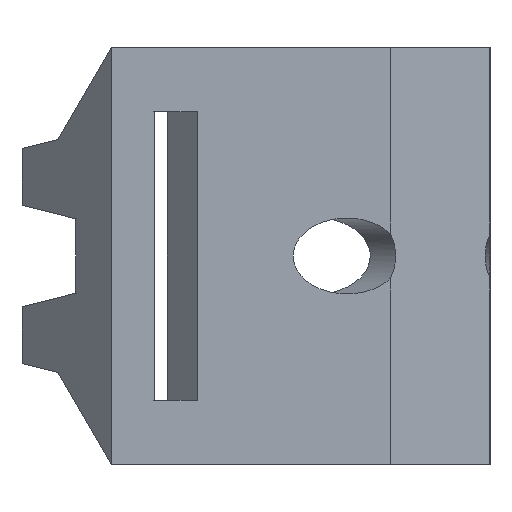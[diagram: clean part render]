
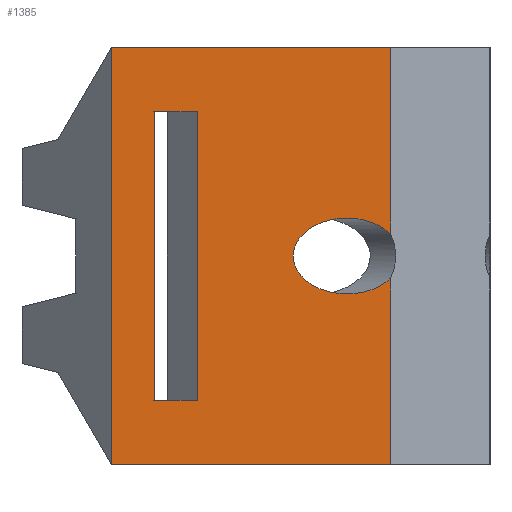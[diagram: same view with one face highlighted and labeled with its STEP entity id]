
A CAD part, left-side view. The second image highlights one B-rep face of the part: STEP entity #1385.
In plain terms, the highlighted planar face has unit normal (-1, 0, 0).
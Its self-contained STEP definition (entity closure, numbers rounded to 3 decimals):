
#9 = CARTESIAN_POINT ( 'NONE',  ( 0., 13.26, 5.7 ) ) ;
#11 = VECTOR ( 'NONE', #1622, 1000. ) ;
#24 = EDGE_CURVE ( 'NONE', #1662, #1462, #1658, .T. ) ;
#51 = CARTESIAN_POINT ( 'NONE',  ( 0., 11.563, -5.7 ) ) ;
#111 = CARTESIAN_POINT ( 'NONE',  ( 0., 3.926, -0.867 ) ) ;
#116 = CARTESIAN_POINT ( 'NONE',  ( 0., 13.26, -5.7 ) ) ;
#128 = VECTOR ( 'NONE', #1361, 1000. ) ;
#129 = LINE ( 'NONE', #922, #416 ) ;
#159 = FACE_BOUND ( 'NONE', #1328, .T. ) ;
#198 = LINE ( 'NONE', #1470, #11 ) ;
#212 = CARTESIAN_POINT ( 'NONE',  ( 0., 13.26, 8.25 ) ) ;
#326 = ORIENTED_EDGE ( 'NONE', *, *, #24, .F. ) ;
#329 = CARTESIAN_POINT ( 'NONE',  ( 0., 3.926, 0.867 ) ) ;
#337 = CARTESIAN_POINT ( 'NONE',  ( 0., 11.563, 5.7 ) ) ;
#343 = VERTEX_POINT ( 'NONE', #1309 ) ;
#371 = DIRECTION ( 'NONE',  ( 0., 0., -1. ) ) ;
#377 = LINE ( 'NONE', #797, #128 ) ;
#386 = VERTEX_POINT ( 'NONE', #659 ) ;
#399 = ORIENTED_EDGE ( 'NONE', *, *, #1259, .F. ) ;
#416 = VECTOR ( 'NONE', #1263, 1000. ) ;
#467 = CARTESIAN_POINT ( 'NONE',  ( 0., 7.778, 0. ) ) ;
#510 = LINE ( 'NONE', #929, #1027 ) ;
#530 = DIRECTION ( 'NONE',  ( 0., 0., -1. ) ) ;
#538 = CARTESIAN_POINT ( 'NONE',  ( 0., 14.957, 8.25 ) ) ;
#568 = DIRECTION ( 'NONE',  ( 0., 1., 0. ) ) ;
#575 = DIRECTION ( 'NONE',  ( 1., 0., 0. ) ) ;
#599 = CARTESIAN_POINT ( 'NONE',  ( 0., 7.778, -1.779 ) ) ;
#654 = ORIENTED_EDGE ( 'NONE', *, *, #1062, .T. ) ;
#659 = CARTESIAN_POINT ( 'NONE',  ( 0., 14.957, 8.25 ) ) ;
#698 = ORIENTED_EDGE ( 'NONE', *, *, #1723, .T. ) ;
#707 = CARTESIAN_POINT ( 'NONE',  ( 0., 14.957, 8.25 ) ) ;
#713 = PLANE ( 'NONE',  #1321 ) ;
#715 = ORIENTED_EDGE ( 'NONE', *, *, #1114, .F. ) ;
#724 = ORIENTED_EDGE ( 'NONE', *, *, #1241, .F. ) ;
#737 = CARTESIAN_POINT ( 'NONE',  ( 0., 3.926, -0.867 ) ) ;
#738 = EDGE_LOOP ( 'NONE', ( #326, #1628, #724, #399, #654, #1249 ) ) ;
#790 = CARTESIAN_POINT ( 'NONE',  ( 0., 3.926, 8.25 ) ) ;
#797 = CARTESIAN_POINT ( 'NONE',  ( 0., 3.926, 8.25 ) ) ;
#807 = ORIENTED_EDGE ( 'NONE', *, *, #983, .F. ) ;
#827 = CARTESIAN_POINT ( 'NONE',  ( 0., 14.957, 5.7 ) ) ;
#922 = CARTESIAN_POINT ( 'NONE',  ( 0., 14.957, 8.25 ) ) ;
#929 = CARTESIAN_POINT ( 'NONE',  ( 0., 14.957, -5.7 ) ) ;
#949 = LINE ( 'NONE', #827, #1122 ) ;
#983 = EDGE_CURVE ( 'NONE', #1624, #1097, #1018, .T. ) ;
#996 = EDGE_CURVE ( 'NONE', #1662, #343, #1304, .T. ) ;
#1005 = DIRECTION ( 'NONE',  ( 0., 0., -1. ) ) ;
#1017 = VERTEX_POINT ( 'NONE', #337 ) ;
#1018 = LINE ( 'NONE', #212, #1434 ) ;
#1022 = CARTESIAN_POINT ( 'NONE',  ( 0., 3.926, 8.25 ) ) ;
#1026 = CARTESIAN_POINT ( 'NONE',  ( 0., 7.778, 1.779 ) ) ;
#1027 = VECTOR ( 'NONE', #1366, 1000. ) ;
#1062 = EDGE_CURVE ( 'NONE', #386, #1112, #1782, .T. ) ;
#1097 = VERTEX_POINT ( 'NONE', #116 ) ;
#1112 = VERTEX_POINT ( 'NONE', #1356 ) ;
#1114 = EDGE_CURVE ( 'NONE', #1097, #1793, #510, .T. ) ;
#1122 = VECTOR ( 'NONE', #1643, 1000. ) ;
#1153 = CARTESIAN_POINT ( 'NONE',  ( 0., 11.563, 8.25 ) ) ;
#1155 = FACE_OUTER_BOUND ( 'NONE', #738, .T. ) ;
#1241 = EDGE_CURVE ( 'NONE', #1292, #343, #377, .T. ) ;
#1249 = ORIENTED_EDGE ( 'NONE', *, *, #1448, .T. ) ;
#1257 = ORIENTED_EDGE ( 'NONE', *, *, #1608, .F. ) ;
#1259 = EDGE_CURVE ( 'NONE', #386, #1292, #129, .T. ) ;
#1263 = DIRECTION ( 'NONE',  ( 0., -1., 0. ) ) ;
#1290 = VECTOR ( 'NONE', #1005, 1000. ) ;
#1292 = VERTEX_POINT ( 'NONE', #1022 ) ;
#1303 = CARTESIAN_POINT ( 'NONE',  ( 0., 5.381, -2.319 ) ) ;
#1304 =( BOUNDED_CURVE ( )  B_SPLINE_CURVE ( 3, ( #737, #1303, #599, #467, #1026, #1590, #329 ),
 .UNSPECIFIED., .F., .T. ) 
 B_SPLINE_CURVE_WITH_KNOTS ( ( 4, 3, 4 ),
 ( 0.617, 3.142, 5.667 ),
 .UNSPECIFIED. ) 
 CURVE ( )  GEOMETRIC_REPRESENTATION_ITEM ( )  RATIONAL_B_SPLINE_CURVE ( ( 1., 0.536, 0.536, 1., 0.536, 0.536, 1. ) ) 
 REPRESENTATION_ITEM ( '' )  );
#1309 = CARTESIAN_POINT ( 'NONE',  ( 0., 3.926, 0.867 ) ) ;
#1321 = AXIS2_PLACEMENT_3D ( 'NONE', #707, #575, #568 ) ;
#1328 = EDGE_LOOP ( 'NONE', ( #807, #1257, #698, #715 ) ) ;
#1356 = CARTESIAN_POINT ( 'NONE',  ( 0., 14.957, -8.25 ) ) ;
#1361 = DIRECTION ( 'NONE',  ( 0., 0., -1. ) ) ;
#1366 = DIRECTION ( 'NONE',  ( 0., -1., 0. ) ) ;
#1385 = ADVANCED_FACE ( 'NONE', ( #1155, #159 ), #713, .F. ) ;
#1401 = LINE ( 'NONE', #1153, #1290 ) ;
#1434 = VECTOR ( 'NONE', #1599, 1000. ) ;
#1448 = EDGE_CURVE ( 'NONE', #1112, #1462, #198, .T. ) ;
#1462 = VERTEX_POINT ( 'NONE', #1610 ) ;
#1470 = CARTESIAN_POINT ( 'NONE',  ( 0., 14.957, -8.25 ) ) ;
#1590 = CARTESIAN_POINT ( 'NONE',  ( 0., 5.381, 2.319 ) ) ;
#1599 = DIRECTION ( 'NONE',  ( 0., 0., -1. ) ) ;
#1608 = EDGE_CURVE ( 'NONE', #1017, #1624, #949, .T. ) ;
#1610 = CARTESIAN_POINT ( 'NONE',  ( 0., 3.926, -8.25 ) ) ;
#1622 = DIRECTION ( 'NONE',  ( 0., -1., 0. ) ) ;
#1624 = VERTEX_POINT ( 'NONE', #9 ) ;
#1628 = ORIENTED_EDGE ( 'NONE', *, *, #996, .T. ) ;
#1643 = DIRECTION ( 'NONE',  ( 0., 1., 0. ) ) ;
#1658 = LINE ( 'NONE', #790, #1686 ) ;
#1662 = VERTEX_POINT ( 'NONE', #111 ) ;
#1686 = VECTOR ( 'NONE', #371, 1000. ) ;
#1723 = EDGE_CURVE ( 'NONE', #1017, #1793, #1401, .T. ) ;
#1782 = LINE ( 'NONE', #538, #1796 ) ;
#1793 = VERTEX_POINT ( 'NONE', #51 ) ;
#1796 = VECTOR ( 'NONE', #530, 1000. ) ;
